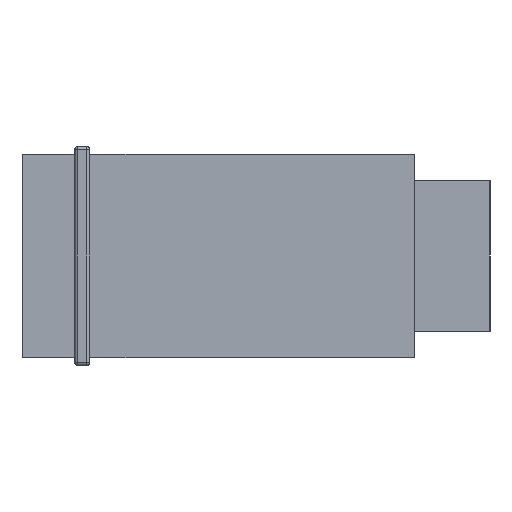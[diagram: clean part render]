
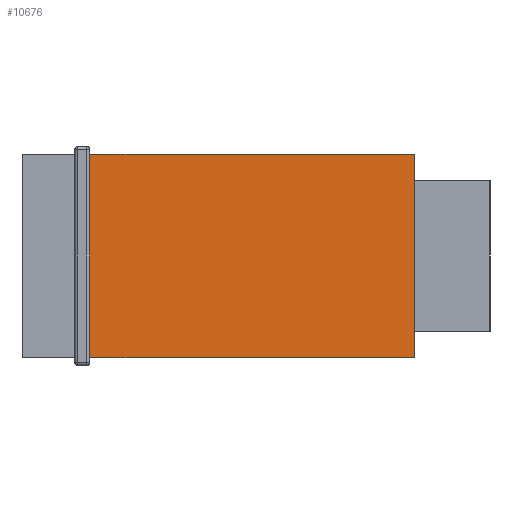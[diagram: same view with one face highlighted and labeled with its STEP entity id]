
A CAD part, left-side view. The second image highlights one B-rep face of the part: STEP entity #10676.
In plain terms, the highlighted planar face has unit normal (-1, 0, 0).
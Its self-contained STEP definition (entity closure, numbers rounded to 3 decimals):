
#144 = LINE ( 'NONE', #518, #2896 ) ;
#191 = VERTEX_POINT ( 'NONE', #10574 ) ;
#350 = EDGE_CURVE ( 'NONE', #10911, #11180, #144, .T. ) ;
#518 = CARTESIAN_POINT ( 'NONE',  ( 0., 26., 13.5 ) ) ;
#625 = FACE_OUTER_BOUND ( 'NONE', #1428, .T. ) ;
#648 = VECTOR ( 'NONE', #9866, 1000. ) ;
#684 = LINE ( 'NONE', #8274, #7780 ) ;
#1428 = EDGE_LOOP ( 'NONE', ( #9638, #9563, #10451, #9945 ) ) ;
#1439 = DIRECTION ( 'NONE',  ( 0., -1., 0. ) ) ;
#1739 = CARTESIAN_POINT ( 'NONE',  ( 0., 0., 9.75 ) ) ;
#2086 = CARTESIAN_POINT ( 'NONE',  ( 0., 21.5, 0. ) ) ;
#2674 = DIRECTION ( 'NONE',  ( 0., 0., -1. ) ) ;
#2896 = VECTOR ( 'NONE', #1439, 1000. ) ;
#3093 = LINE ( 'NONE', #3354, #648 ) ;
#3354 = CARTESIAN_POINT ( 'NONE',  ( 0., 0., 9.75 ) ) ;
#4452 = EDGE_CURVE ( 'NONE', #6498, #10911, #5710, .T. ) ;
#5710 = LINE ( 'NONE', #2086, #10695 ) ;
#6211 = CARTESIAN_POINT ( 'NONE',  ( 0., 0., 13.5 ) ) ;
#6498 = VERTEX_POINT ( 'NONE', #8848 ) ;
#6682 = CARTESIAN_POINT ( 'NONE',  ( 0., 21.5, 13.5 ) ) ;
#7288 = PLANE ( 'NONE',  #7602 ) ;
#7602 = AXIS2_PLACEMENT_3D ( 'NONE', #1739, #8235, #2674 ) ;
#7713 = EDGE_CURVE ( 'NONE', #6498, #191, #684, .T. ) ;
#7780 = VECTOR ( 'NONE', #11078, 1000. ) ;
#8235 = DIRECTION ( 'NONE',  ( 1., 0., 0. ) ) ;
#8274 = CARTESIAN_POINT ( 'NONE',  ( 0., 0., 0. ) ) ;
#8848 = CARTESIAN_POINT ( 'NONE',  ( 0., 21.5, 0. ) ) ;
#9563 = ORIENTED_EDGE ( 'NONE', *, *, #7713, .T. ) ;
#9638 = ORIENTED_EDGE ( 'NONE', *, *, #4452, .F. ) ;
#9770 = EDGE_CURVE ( 'NONE', #11180, #191, #3093, .T. ) ;
#9866 = DIRECTION ( 'NONE',  ( 0., 0., -1. ) ) ;
#9945 = ORIENTED_EDGE ( 'NONE', *, *, #350, .F. ) ;
#10451 = ORIENTED_EDGE ( 'NONE', *, *, #9770, .F. ) ;
#10574 = CARTESIAN_POINT ( 'NONE',  ( 0., 0., 0. ) ) ;
#10676 = ADVANCED_FACE ( 'NONE', ( #625 ), #7288, .F. ) ;
#10695 = VECTOR ( 'NONE', #11345, 1000. ) ;
#10911 = VERTEX_POINT ( 'NONE', #6682 ) ;
#11078 = DIRECTION ( 'NONE',  ( 0., -1., 0. ) ) ;
#11180 = VERTEX_POINT ( 'NONE', #6211 ) ;
#11345 = DIRECTION ( 'NONE',  ( 0., 0., 1. ) ) ;
